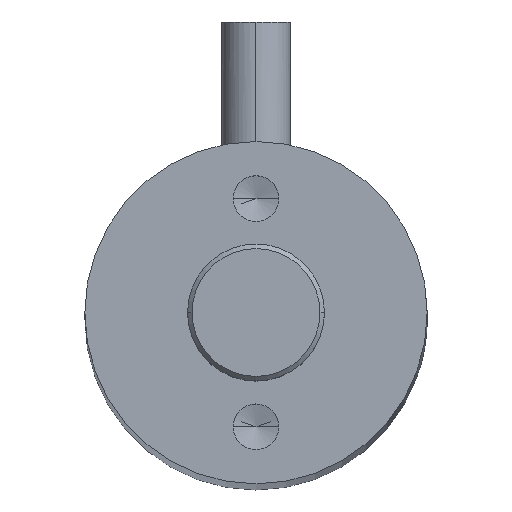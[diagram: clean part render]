
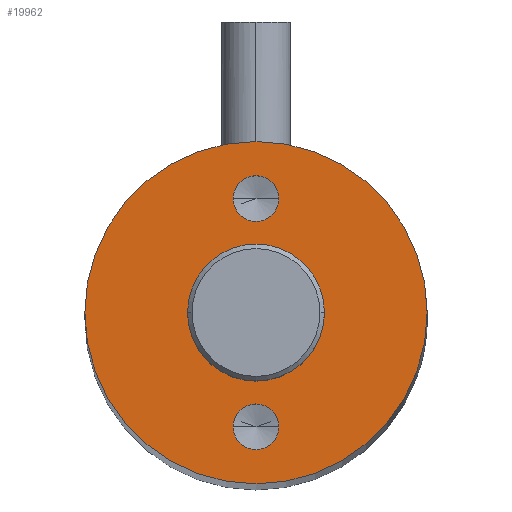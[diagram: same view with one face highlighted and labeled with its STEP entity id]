
A CAD part, top view. The second image highlights one B-rep face of the part: STEP entity #19962.
In plain terms, the highlighted planar face has unit normal (0, 0, 1).
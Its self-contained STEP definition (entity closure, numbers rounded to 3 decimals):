
#1437 = DIRECTION ( 'NONE',  ( 0., 0., 1. ) ) ;
#2167 = FACE_BOUND ( 'NONE', #22054, .T. ) ;
#2661 = EDGE_CURVE ( 'NONE', #6607, #23991, #20106, .T. ) ;
#2920 = CARTESIAN_POINT ( 'NONE',  ( -7.5, 0., 154.6 ) ) ;
#3549 = CARTESIAN_POINT ( 'NONE',  ( 7.5, 0., 154.6 ) ) ;
#3714 = ORIENTED_EDGE ( 'NONE', *, *, #2661, .T. ) ;
#3995 = EDGE_CURVE ( 'NONE', #37331, #20952, #22008, .T. ) ;
#4808 = DIRECTION ( 'NONE',  ( 0., 0., 1. ) ) ;
#5412 = DIRECTION ( 'NONE',  ( 1., 0., 0. ) ) ;
#6230 = EDGE_CURVE ( 'NONE', #39284, #18342, #14315, .T. ) ;
#6607 = VERTEX_POINT ( 'NONE', #2920 ) ;
#8256 = CIRCLE ( 'NONE', #15335, 1. ) ;
#8367 = ORIENTED_EDGE ( 'NONE', *, *, #25762, .T. ) ;
#8474 = CARTESIAN_POINT ( 'NONE',  ( 0., -5., 154.6 ) ) ;
#8856 = DIRECTION ( 'NONE',  ( 0., 0., 1. ) ) ;
#8987 = VERTEX_POINT ( 'NONE', #12669 ) ;
#9766 = EDGE_LOOP ( 'NONE', ( #30568, #33566 ) ) ;
#10269 = FACE_BOUND ( 'NONE', #9766, .T. ) ;
#10516 = DIRECTION ( 'NONE',  ( 1., 0., 0. ) ) ;
#10760 = PLANE ( 'NONE',  #24723 ) ;
#12385 = CARTESIAN_POINT ( 'NONE',  ( 1., 5., 154.6 ) ) ;
#12572 = CIRCLE ( 'NONE', #12946, 1. ) ;
#12669 = CARTESIAN_POINT ( 'NONE',  ( 3., 0., 154.6 ) ) ;
#12873 = DIRECTION ( 'NONE',  ( 1., 0., 0. ) ) ;
#12946 = AXIS2_PLACEMENT_3D ( 'NONE', #8474, #8856, #27316 ) ;
#13619 = DIRECTION ( 'NONE',  ( 0., 0., 1. ) ) ;
#14315 = CIRCLE ( 'NONE', #33432, 1. ) ;
#14380 = EDGE_CURVE ( 'NONE', #8987, #25819, #14699, .T. ) ;
#14699 = CIRCLE ( 'NONE', #34812, 3. ) ;
#15049 = DIRECTION ( 'NONE',  ( 0., 0., 1. ) ) ;
#15221 = DIRECTION ( 'NONE',  ( 1., 0., 0. ) ) ;
#15335 = AXIS2_PLACEMENT_3D ( 'NONE', #33526, #33898, #21508 ) ;
#16080 = DIRECTION ( 'NONE',  ( 1., 0., 0. ) ) ;
#16569 = ORIENTED_EDGE ( 'NONE', *, *, #34013, .F. ) ;
#16999 = CIRCLE ( 'NONE', #36916, 3. ) ;
#18026 = CARTESIAN_POINT ( 'NONE',  ( 0., -5., 154.6 ) ) ;
#18075 = DIRECTION ( 'NONE',  ( 0., 0., 1. ) ) ;
#18342 = VERTEX_POINT ( 'NONE', #37338 ) ;
#18710 = DIRECTION ( 'NONE',  ( 0., 0., 1. ) ) ;
#18855 = CARTESIAN_POINT ( 'NONE',  ( -1., 5., 154.6 ) ) ;
#19566 = CARTESIAN_POINT ( 'NONE',  ( 0., 0., 154.6 ) ) ;
#19959 = FACE_BOUND ( 'NONE', #22168, .T. ) ;
#19962 = ADVANCED_FACE ( 'NONE', ( #10269, #19959, #2167, #35372 ), #10760, .T. ) ;
#20106 = CIRCLE ( 'NONE', #20240, 7.5 ) ;
#20240 = AXIS2_PLACEMENT_3D ( 'NONE', #23211, #4808, #26294 ) ;
#20952 = VERTEX_POINT ( 'NONE', #18855 ) ;
#21508 = DIRECTION ( 'NONE',  ( 1., 0., 0. ) ) ;
#22008 = CIRCLE ( 'NONE', #26705, 1. ) ;
#22054 = EDGE_LOOP ( 'NONE', ( #30878, #27677 ) ) ;
#22168 = EDGE_LOOP ( 'NONE', ( #26615, #16569 ) ) ;
#23211 = CARTESIAN_POINT ( 'NONE',  ( 0., 0., 154.6 ) ) ;
#23991 = VERTEX_POINT ( 'NONE', #3549 ) ;
#24230 = CARTESIAN_POINT ( 'NONE',  ( 0., 5., 154.6 ) ) ;
#24653 = EDGE_CURVE ( 'NONE', #25819, #8987, #16999, .T. ) ;
#24723 = AXIS2_PLACEMENT_3D ( 'NONE', #19566, #13619, #10516 ) ;
#25058 = CARTESIAN_POINT ( 'NONE',  ( 1., -5., 154.6 ) ) ;
#25762 = EDGE_CURVE ( 'NONE', #23991, #6607, #28003, .T. ) ;
#25819 = VERTEX_POINT ( 'NONE', #26111 ) ;
#26111 = CARTESIAN_POINT ( 'NONE',  ( -3., 0., 154.6 ) ) ;
#26294 = DIRECTION ( 'NONE',  ( 1., 0., 0. ) ) ;
#26615 = ORIENTED_EDGE ( 'NONE', *, *, #3995, .F. ) ;
#26705 = AXIS2_PLACEMENT_3D ( 'NONE', #24230, #18075, #15221 ) ;
#27316 = DIRECTION ( 'NONE',  ( 1., 0., 0. ) ) ;
#27677 = ORIENTED_EDGE ( 'NONE', *, *, #14380, .F. ) ;
#28003 = CIRCLE ( 'NONE', #38014, 7.5 ) ;
#30568 = ORIENTED_EDGE ( 'NONE', *, *, #6230, .F. ) ;
#30878 = ORIENTED_EDGE ( 'NONE', *, *, #24653, .F. ) ;
#30900 = EDGE_CURVE ( 'NONE', #18342, #39284, #12572, .T. ) ;
#31681 = DIRECTION ( 'NONE',  ( 1., 0., 0. ) ) ;
#33388 = CARTESIAN_POINT ( 'NONE',  ( 0., 0., 154.6 ) ) ;
#33432 = AXIS2_PLACEMENT_3D ( 'NONE', #18026, #15049, #16080 ) ;
#33526 = CARTESIAN_POINT ( 'NONE',  ( 0., 5., 154.6 ) ) ;
#33566 = ORIENTED_EDGE ( 'NONE', *, *, #30900, .F. ) ;
#33898 = DIRECTION ( 'NONE',  ( 0., 0., 1. ) ) ;
#34013 = EDGE_CURVE ( 'NONE', #20952, #37331, #8256, .T. ) ;
#34305 = CARTESIAN_POINT ( 'NONE',  ( 0., 0., 154.6 ) ) ;
#34812 = AXIS2_PLACEMENT_3D ( 'NONE', #34305, #18710, #12873 ) ;
#35175 = CARTESIAN_POINT ( 'NONE',  ( 0., 0., 154.6 ) ) ;
#35372 = FACE_OUTER_BOUND ( 'NONE', #36855, .T. ) ;
#36855 = EDGE_LOOP ( 'NONE', ( #3714, #8367 ) ) ;
#36916 = AXIS2_PLACEMENT_3D ( 'NONE', #33388, #39471, #5412 ) ;
#37331 = VERTEX_POINT ( 'NONE', #12385 ) ;
#37338 = CARTESIAN_POINT ( 'NONE',  ( -1., -5., 154.6 ) ) ;
#38014 = AXIS2_PLACEMENT_3D ( 'NONE', #35175, #1437, #31681 ) ;
#39284 = VERTEX_POINT ( 'NONE', #25058 ) ;
#39471 = DIRECTION ( 'NONE',  ( 0., 0., 1. ) ) ;
